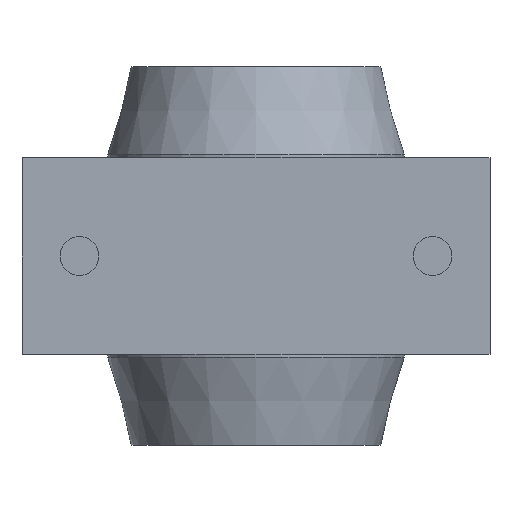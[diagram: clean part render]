
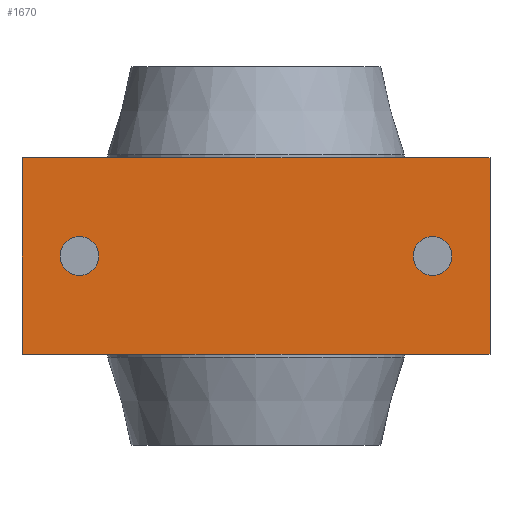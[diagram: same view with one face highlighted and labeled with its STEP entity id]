
A CAD part, front view. The second image highlights one B-rep face of the part: STEP entity #1670.
In plain terms, the highlighted planar face has unit normal (0, -1, 0).
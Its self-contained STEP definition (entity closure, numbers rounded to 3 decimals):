
#105=FACE_BOUND('',#300,.T.);
#106=FACE_BOUND('',#301,.T.);
#139=PLANE('',#1913);
#198=FACE_OUTER_BOUND('',#299,.T.);
#299=EDGE_LOOP('',(#1209,#1210,#1211,#1212));
#300=EDGE_LOOP('',(#1213,#1214));
#301=EDGE_LOOP('',(#1215,#1216));
#418=LINE('',#2757,#505);
#425=LINE('',#2773,#512);
#434=LINE('',#2808,#521);
#435=LINE('',#2810,#522);
#505=VECTOR('',#2165,10.);
#512=VECTOR('',#2178,10.);
#521=VECTOR('',#2221,10.);
#522=VECTOR('',#2224,10.);
#584=CIRCLE('',#1860,4.188);
#585=CIRCLE('',#1861,4.188);
#588=CIRCLE('',#1866,4.188);
#589=CIRCLE('',#1867,4.188);
#690=VERTEX_POINT('',#2686);
#691=VERTEX_POINT('',#2687);
#694=VERTEX_POINT('',#2697);
#695=VERTEX_POINT('',#2698);
#717=VERTEX_POINT('',#2754);
#718=VERTEX_POINT('',#2756);
#723=VERTEX_POINT('',#2770);
#724=VERTEX_POINT('',#2772);
#855=EDGE_CURVE('',#690,#691,#584,.T.);
#856=EDGE_CURVE('',#691,#690,#585,.T.);
#860=EDGE_CURVE('',#694,#695,#588,.T.);
#861=EDGE_CURVE('',#695,#694,#589,.T.);
#888=EDGE_CURVE('',#718,#717,#418,.T.);
#896=EDGE_CURVE('',#724,#723,#425,.T.);
#915=EDGE_CURVE('',#717,#724,#434,.T.);
#916=EDGE_CURVE('',#723,#718,#435,.T.);
#1209=ORIENTED_EDGE('',*,*,#915,.T.);
#1210=ORIENTED_EDGE('',*,*,#896,.T.);
#1211=ORIENTED_EDGE('',*,*,#916,.T.);
#1212=ORIENTED_EDGE('',*,*,#888,.T.);
#1213=ORIENTED_EDGE('',*,*,#855,.T.);
#1214=ORIENTED_EDGE('',*,*,#856,.T.);
#1215=ORIENTED_EDGE('',*,*,#860,.T.);
#1216=ORIENTED_EDGE('',*,*,#861,.T.);
#1670=ADVANCED_FACE('',(#198,#105,#106),#139,.F.);
#1860=AXIS2_PLACEMENT_3D('',#2688,#2091,#2092);
#1861=AXIS2_PLACEMENT_3D('',#2689,#2093,#2094);
#1866=AXIS2_PLACEMENT_3D('',#2699,#2104,#2105);
#1867=AXIS2_PLACEMENT_3D('',#2700,#2106,#2107);
#1913=AXIS2_PLACEMENT_3D('',#2811,#2225,#2226);
#2091=DIRECTION('center_axis',(0.,1.,0.));
#2092=DIRECTION('ref_axis',(-1.,0.,0.));
#2093=DIRECTION('center_axis',(0.,1.,0.));
#2094=DIRECTION('ref_axis',(-1.,0.,0.));
#2104=DIRECTION('center_axis',(0.,1.,0.));
#2105=DIRECTION('ref_axis',(-1.,0.,0.));
#2106=DIRECTION('center_axis',(0.,1.,0.));
#2107=DIRECTION('ref_axis',(-1.,0.,0.));
#2165=DIRECTION('',(1.,0.,0.));
#2178=DIRECTION('',(-1.,0.,0.));
#2221=DIRECTION('',(0.,0.,1.));
#2224=DIRECTION('',(0.,0.,-1.));
#2225=DIRECTION('center_axis',(0.,1.,0.));
#2226=DIRECTION('ref_axis',(0.,0.,1.));
#2686=CARTESIAN_POINT('',(-42.288,-42.9,0.));
#2687=CARTESIAN_POINT('',(-33.912,-42.9,0.));
#2688=CARTESIAN_POINT('Origin',(-38.1,-42.9,0.));
#2689=CARTESIAN_POINT('Origin',(-38.1,-42.9,0.));
#2697=CARTESIAN_POINT('',(33.912,-42.9,0.));
#2698=CARTESIAN_POINT('',(42.288,-42.9,0.));
#2699=CARTESIAN_POINT('Origin',(38.1,-42.9,0.));
#2700=CARTESIAN_POINT('Origin',(38.1,-42.9,0.));
#2754=CARTESIAN_POINT('',(50.5,-42.9,-21.25));
#2756=CARTESIAN_POINT('',(-50.5,-42.9,-21.25));
#2757=CARTESIAN_POINT('',(25.25,-42.9,-21.25));
#2770=CARTESIAN_POINT('',(-50.5,-42.9,21.25));
#2772=CARTESIAN_POINT('',(50.5,-42.9,21.25));
#2773=CARTESIAN_POINT('',(-25.25,-42.9,21.25));
#2808=CARTESIAN_POINT('',(50.5,-42.9,10.625));
#2810=CARTESIAN_POINT('',(-50.5,-42.9,-10.625));
#2811=CARTESIAN_POINT('Origin',(0.,-42.9,0.));
